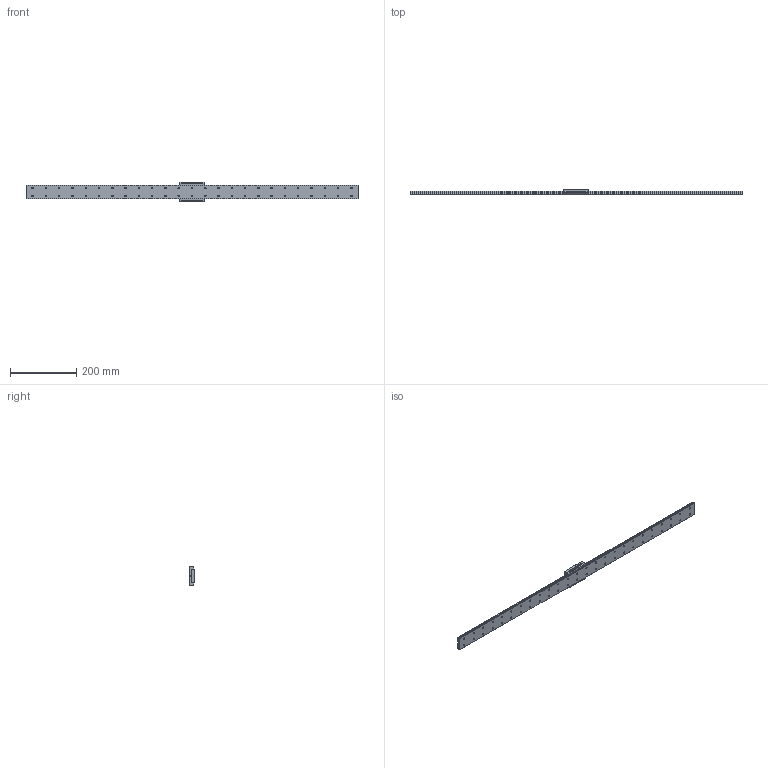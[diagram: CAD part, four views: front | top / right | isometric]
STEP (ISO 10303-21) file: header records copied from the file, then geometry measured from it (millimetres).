
FILE_DESCRIPTION( ( '' ), '1' );
FILE_NAME( 'C:/Users/v3-771-32344/Documents/Website 2016/STEP/SRS15WN1UU1000200462.75000.stp', '2016-11-10T13:17:39', ( '' ), ( '' ), ' ', ' ', ' ' );
FILE_SCHEMA( ( 'CONFIG_CONTROL_DESIGN' ) );
Length unit declared in the file: millimetre
Products named in the file (2): 1; 2
Bounding box: 1000 x 16 x 60 mm (x, y, z)
Volume: 404078.9 mm3; surface area: 123545.2 mm2
Topology: 2 solids, 2 shells, 404 faces, 1012 edges, 660 vertices
Faces by surface type: cylinder 246, plane 142, cone 16
Entity records: 12492 total; most frequent: DIRECTION 2316, CARTESIAN_POINT 2070, ORIENTED_EDGE 2008, EDGE_CURVE 1004, AXIS2_PLACEMENT_3D 906, VERTEX_POINT 660, EDGE_LOOP 560, LINE 504
